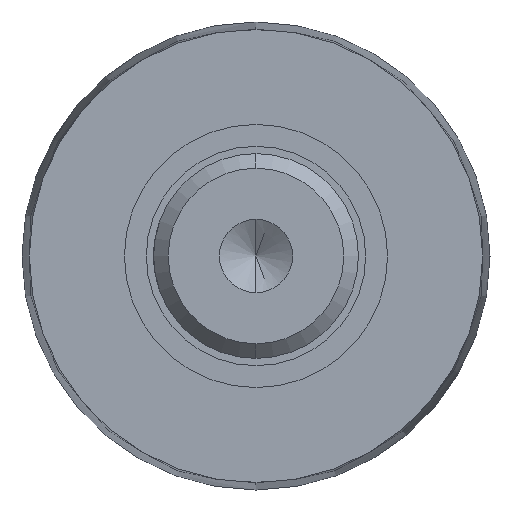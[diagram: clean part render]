
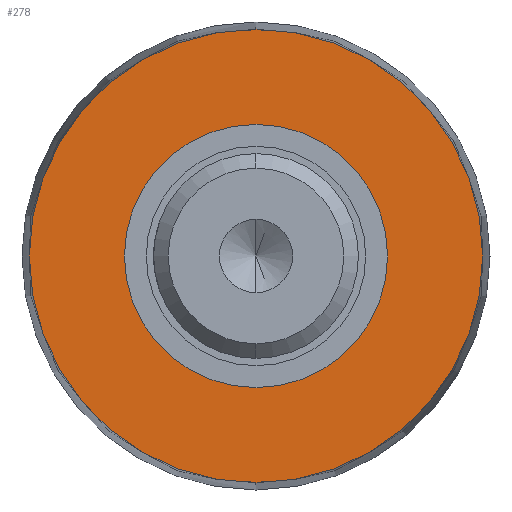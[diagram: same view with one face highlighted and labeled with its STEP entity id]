
A CAD part, left-side view. The second image highlights one B-rep face of the part: STEP entity #278.
In plain terms, the highlighted planar face has unit normal (-1, 0, 0).
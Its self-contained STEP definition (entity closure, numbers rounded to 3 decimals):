
#88 = ORIENTED_EDGE ( 'NONE', *, *, #1009, .T. ) ;
#106 = CARTESIAN_POINT ( 'NONE',  ( 98.5, 0., 9. ) ) ;
#108 = DIRECTION ( 'NONE',  ( -1., 0., 0. ) ) ;
#112 = CIRCLE ( 'NONE', #1122, 9. ) ;
#153 = EDGE_LOOP ( 'NONE', ( #88, #758 ) ) ;
#214 = DIRECTION ( 'NONE',  ( 0., 0., 1. ) ) ;
#243 = DIRECTION ( 'NONE',  ( 0., 0., -1. ) ) ;
#278 = ADVANCED_FACE ( 'NONE', ( #1055, #641 ), #1221, .T. ) ;
#283 = CIRCLE ( 'NONE', #1277, 9. ) ;
#294 = EDGE_LOOP ( 'NONE', ( #1261, #866 ) ) ;
#316 = CARTESIAN_POINT ( 'NONE',  ( 98.5, 0., -9. ) ) ;
#332 = EDGE_CURVE ( 'NONE', #1087, #476, #283, .T. ) ;
#373 = AXIS2_PLACEMENT_3D ( 'NONE', #499, #620, #1112 ) ;
#476 = VERTEX_POINT ( 'NONE', #106 ) ;
#499 = CARTESIAN_POINT ( 'NONE',  ( 98.5, 0., 0. ) ) ;
#620 = DIRECTION ( 'NONE',  ( -1., 0., 0. ) ) ;
#637 = AXIS2_PLACEMENT_3D ( 'NONE', #1275, #685, #968 ) ;
#639 = CARTESIAN_POINT ( 'NONE',  ( 98.5, 0., -15.5 ) ) ;
#641 = FACE_OUTER_BOUND ( 'NONE', #153, .T. ) ;
#685 = DIRECTION ( 'NONE',  ( -1., 0., 0. ) ) ;
#727 = CIRCLE ( 'NONE', #637, 15.5 ) ;
#730 = CARTESIAN_POINT ( 'NONE',  ( 98.5, 16., 0. ) ) ;
#755 = EDGE_CURVE ( 'NONE', #804, #1308, #727, .T. ) ;
#758 = ORIENTED_EDGE ( 'NONE', *, *, #755, .T. ) ;
#802 = DIRECTION ( 'NONE',  ( 0., 0., -1. ) ) ;
#804 = VERTEX_POINT ( 'NONE', #877 ) ;
#824 = EDGE_CURVE ( 'NONE', #476, #1087, #112, .T. ) ;
#864 = CARTESIAN_POINT ( 'NONE',  ( 98.5, 0., 0. ) ) ;
#866 = ORIENTED_EDGE ( 'NONE', *, *, #824, .T. ) ;
#877 = CARTESIAN_POINT ( 'NONE',  ( 98.5, 0., 15.5 ) ) ;
#899 = DIRECTION ( 'NONE',  ( 1., 0., 0. ) ) ;
#968 = DIRECTION ( 'NONE',  ( 0., 0., 1. ) ) ;
#986 = CIRCLE ( 'NONE', #373, 15.5 ) ;
#1009 = EDGE_CURVE ( 'NONE', #1308, #804, #986, .T. ) ;
#1055 = FACE_BOUND ( 'NONE', #294, .T. ) ;
#1087 = VERTEX_POINT ( 'NONE', #316 ) ;
#1094 = CARTESIAN_POINT ( 'NONE',  ( 98.5, 0., 0. ) ) ;
#1112 = DIRECTION ( 'NONE',  ( 0., 0., 1. ) ) ;
#1122 = AXIS2_PLACEMENT_3D ( 'NONE', #1094, #899, #802 ) ;
#1221 = PLANE ( 'NONE',  #1268 ) ;
#1249 = DIRECTION ( 'NONE',  ( 1., 0., 0. ) ) ;
#1261 = ORIENTED_EDGE ( 'NONE', *, *, #332, .T. ) ;
#1268 = AXIS2_PLACEMENT_3D ( 'NONE', #730, #108, #214 ) ;
#1275 = CARTESIAN_POINT ( 'NONE',  ( 98.5, 0., 0. ) ) ;
#1277 = AXIS2_PLACEMENT_3D ( 'NONE', #864, #1249, #243 ) ;
#1308 = VERTEX_POINT ( 'NONE', #639 ) ;
